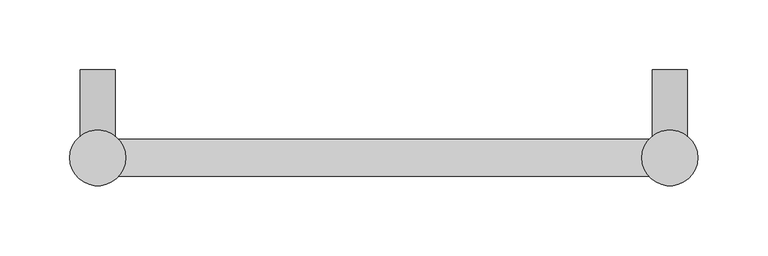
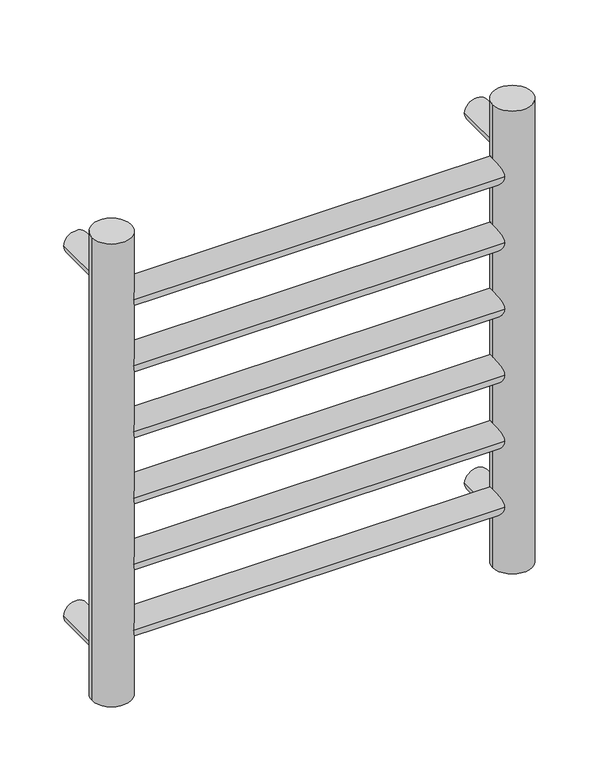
"""IFC4 building model written with IfcOpenShell, lengths in millimetres: unitary equipment geometry, nbl_HeatedTowelRailElectric : nbl_HeatedTowelRailElectric."""

from ifc_helpers import new_model, si_unit, point, frame, frame_2d, origin, origin_with_axes, place, context, project, spatial, circle_curve, trimmed, segment, composite_curve, outline, extrude, source, transform, mapped, element, save


def unitary_equipment_84d95851(model_context):
    return source(origin(), model_context, "Body", "SweptSolid", [
        extrude(outline(composite_curve([segment(trimmed(circle_curve(frame_2d((50.0, -205.0)), 12.5), [point((50.0, -217.5))], [point((50.0, -192.5))], False, "CARTESIAN"), True, "CONTINUOUS"), segment(trimmed(circle_curve(frame_2d((50.0, -205.0)), 12.5), [point((50.0, -192.5))], [point((50.0, -217.5))], False, "CARTESIAN"), True, "CONTINUOUS")], self_intersect=False)), frame((0.0, 0.0, 0.0), z_axis=(0.0, 1.0, 0.0), x_axis=(0.0, 0.0, 1.0)), (0.0, 0.0, 1.0), 63.0),
        extrude(outline(composite_curve([segment(trimmed(circle_curve(frame_2d((50.0, 205.0)), 12.5), [point((50.0, 192.5))], [point((50.0, 217.5))], False, "CARTESIAN"), True, "CONTINUOUS"), segment(trimmed(circle_curve(frame_2d((50.0, 205.0)), 12.5), [point((50.0, 217.5))], [point((50.0, 192.5))], False, "CARTESIAN"), True, "CONTINUOUS")], self_intersect=False)), frame((0.0, 0.0, 0.0), z_axis=(0.0, 1.0, 0.0), x_axis=(0.0, 0.0, 1.0)), (0.0, 0.0, 1.0), 63.0),
        extrude(outline(composite_curve([segment(trimmed(circle_curve(frame_2d((450.0, 205.0)), 12.5), [point((450.0, 192.5))], [point((450.0, 217.5))], False, "CARTESIAN"), True, "CONTINUOUS"), segment(trimmed(circle_curve(frame_2d((450.0, 205.0)), 12.5), [point((450.0, 217.5))], [point((450.0, 192.5))], False, "CARTESIAN"), True, "CONTINUOUS")], self_intersect=False)), frame((0.0, 0.0, 0.0), z_axis=(0.0, 1.0, 0.0), x_axis=(0.0, 0.0, 1.0)), (0.0, 0.0, 1.0), 63.0),
        extrude(outline(composite_curve([segment(trimmed(circle_curve(frame_2d((450.0, -205.0)), 12.5), [point((450.0, -217.5))], [point((450.0, -192.5))], False, "CARTESIAN"), True, "CONTINUOUS"), segment(trimmed(circle_curve(frame_2d((450.0, -205.0)), 12.5), [point((450.0, -192.5))], [point((450.0, -217.5))], False, "CARTESIAN"), True, "CONTINUOUS")], self_intersect=False)), frame((0.0, 0.0, 0.0), z_axis=(0.0, 1.0, 0.0), x_axis=(0.0, 0.0, 1.0)), (0.0, 0.0, 1.0), 63.0),
        extrude(outline(composite_curve([segment(trimmed(circle_curve(frame_2d((-205.0, 0.0)), 20.0), [point((-225.0, 0.0))], [point((-185.0, 0.0))], False, "CARTESIAN"), True, "CONTINUOUS"), segment(trimmed(circle_curve(frame_2d((-205.0, 0.0)), 20.0), [point((-185.0, 0.0))], [point((-225.0, 0.0))], False, "CARTESIAN"), True, "CONTINUOUS")], self_intersect=False)), origin_with_axes(), (0.0, 0.0, 1.0), 500.0),
        extrude(outline(composite_curve([segment(trimmed(circle_curve(frame_2d((205.0, 0.0)), 20.0), [point((185.0, 0.0))], [point((225.0, 0.0))], False, "CARTESIAN"), True, "CONTINUOUS"), segment(trimmed(circle_curve(frame_2d((205.0, 0.0)), 20.0), [point((225.0, 0.0))], [point((185.0, 0.0))], False, "CARTESIAN"), True, "CONTINUOUS")], self_intersect=False)), origin_with_axes(), (0.0, 0.0, 1.0), 500.0),
        extrude(outline(composite_curve([segment(trimmed(circle_curve(frame_2d((0.0, 71.4285714)), 13.3), [point((-13.3, 71.4285714))], [point((13.3, 71.4285714))], False, "CARTESIAN"), True, "CONTINUOUS"), segment(trimmed(circle_curve(frame_2d((0.0, 71.4285714)), 13.3), [point((13.3, 71.4285714))], [point((-13.3, 71.4285714))], False, "CARTESIAN"), True, "CONTINUOUS")], self_intersect=False)), frame((-205.0, 0.0, 0.0), z_axis=(1.0, 0.0, 0.0), x_axis=(0.0, 1.0, 0.0)), (0.0, 0.0, 1.0), 410.0),
        extrude(outline(composite_curve([segment(trimmed(circle_curve(frame_2d((0.0, 428.5714286)), 13.3), [point((-13.3, 428.5714286))], [point((13.3, 428.5714286))], False, "CARTESIAN"), True, "CONTINUOUS"), segment(trimmed(circle_curve(frame_2d((0.0, 428.5714286)), 13.3), [point((13.3, 428.5714286))], [point((-13.3, 428.5714286))], False, "CARTESIAN"), True, "CONTINUOUS")], self_intersect=False)), frame((-205.0, 0.0, 0.0), z_axis=(1.0, 0.0, 0.0), x_axis=(0.0, 1.0, 0.0)), (0.0, 0.0, 1.0), 410.0),
        extrude(outline(composite_curve([segment(trimmed(circle_curve(frame_2d((0.0, 357.1428571)), 13.3), [point((-13.3, 357.1428571))], [point((13.3, 357.1428571))], False, "CARTESIAN"), True, "CONTINUOUS"), segment(trimmed(circle_curve(frame_2d((0.0, 357.1428571)), 13.3), [point((13.3, 357.1428571))], [point((-13.3, 357.1428571))], False, "CARTESIAN"), True, "CONTINUOUS")], self_intersect=False)), frame((-205.0, 0.0, 0.0), z_axis=(1.0, 0.0, 0.0), x_axis=(0.0, 1.0, 0.0)), (0.0, 0.0, 1.0), 410.0),
        extrude(outline(composite_curve([segment(trimmed(circle_curve(frame_2d((0.0, 142.8571429)), 13.3), [point((-13.3, 142.8571429))], [point((13.3, 142.8571429))], False, "CARTESIAN"), True, "CONTINUOUS"), segment(trimmed(circle_curve(frame_2d((0.0, 142.8571429)), 13.3), [point((13.3, 142.8571429))], [point((-13.3, 142.8571429))], False, "CARTESIAN"), True, "CONTINUOUS")], self_intersect=False)), frame((-205.0, 0.0, 0.0), z_axis=(1.0, 0.0, 0.0), x_axis=(0.0, 1.0, 0.0)), (0.0, 0.0, 1.0), 410.0),
        extrude(outline(composite_curve([segment(trimmed(circle_curve(frame_2d((0.0, 285.7142857)), 13.3), [point((-13.3, 285.7142857))], [point((13.3, 285.7142857))], False, "CARTESIAN"), True, "CONTINUOUS"), segment(trimmed(circle_curve(frame_2d((0.0, 285.7142857)), 13.3), [point((13.3, 285.7142857))], [point((-13.3, 285.7142857))], False, "CARTESIAN"), True, "CONTINUOUS")], self_intersect=False)), frame((-205.0, 0.0, 0.0), z_axis=(1.0, 0.0, 0.0), x_axis=(0.0, 1.0, 0.0)), (0.0, 0.0, 1.0), 410.0),
        extrude(outline(composite_curve([segment(trimmed(circle_curve(frame_2d((0.0, 214.2857143)), 13.3), [point((-13.3, 214.2857143))], [point((13.3, 214.2857143))], False, "CARTESIAN"), True, "CONTINUOUS"), segment(trimmed(circle_curve(frame_2d((0.0, 214.2857143)), 13.3), [point((13.3, 214.2857143))], [point((-13.3, 214.2857143))], False, "CARTESIAN"), True, "CONTINUOUS")], self_intersect=False)), frame((-205.0, 0.0, 0.0), z_axis=(1.0, 0.0, 0.0), x_axis=(0.0, 1.0, 0.0)), (0.0, 0.0, 1.0), 410.0),
    ])


if __name__ == "__main__":
    model = new_model("IFC4")
    model_context = context("Model", 3, world=origin())
    ifc_project = project(units=[si_unit("LENGTHUNIT", "METRE", prefix="MILLI")], contexts=[model_context])
    site = spatial("IfcSite", under=ifc_project)
    building = spatial("IfcBuilding", under=site)
    placement = place(None, origin())
    unitary_equipment_shape = unitary_equipment_84d95851(model_context)
    element("IfcUnitaryEquipment", 1, ObjectType="nbl_HeatedTowelRailElectric : nbl_HeatedTowelRailElectric", at=placement, inside=building, context=model_context, shape_type="MappedRepresentation", body=[
        mapped(unitary_equipment_shape, transform((0.0, 0.0, 0.0), x_axis=(1.0, 0.0, 0.0), y_axis=(0.0, 1.0, 0.0), z_axis=(0.0, 0.0, 1.0))),
    ])
    save(model, "model.ifc")
